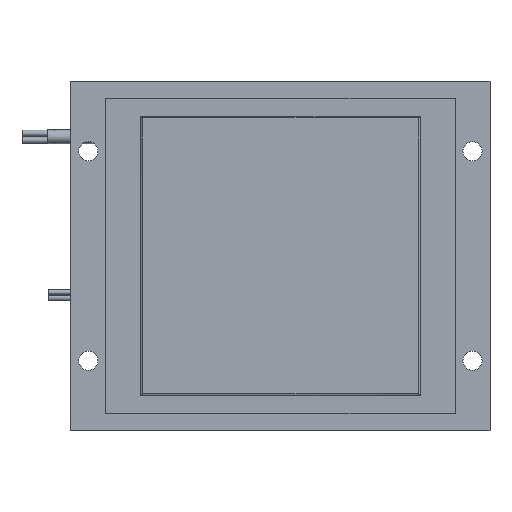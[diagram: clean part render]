
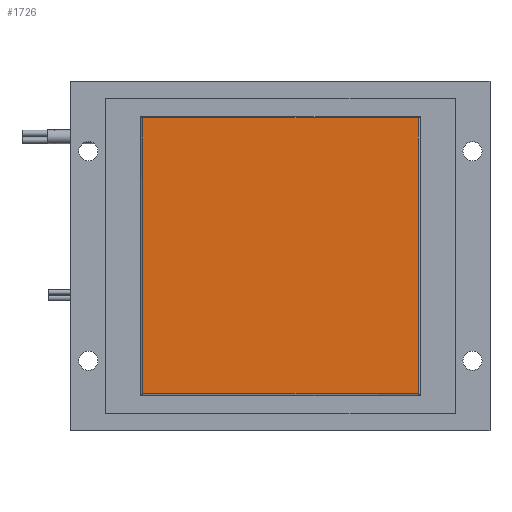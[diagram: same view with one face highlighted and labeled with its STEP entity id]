
A CAD part, top view. The second image highlights one B-rep face of the part: STEP entity #1726.
In plain terms, the highlighted planar face has unit normal (0, 0, 1).
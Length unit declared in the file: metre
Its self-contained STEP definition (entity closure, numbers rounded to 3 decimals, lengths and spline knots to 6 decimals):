
#1726=ADVANCED_FACE('0:818',(#3748),#3749,.T.);
#3748=FACE_OUTER_BOUND('',#6230,.T.);
#3749=PLANE('',#6231);
#6230=EDGE_LOOP('',(#10703,#10704,#10705,#10706));
#6231=AXIS2_PLACEMENT_3D('',#10707,#10708,#10709);
#10703=ORIENTED_EDGE('',*,*,#15134,.F.);
#10704=ORIENTED_EDGE('',*,*,#15131,.F.);
#10705=ORIENTED_EDGE('',*,*,#15127,.F.);
#10706=ORIENTED_EDGE('',*,*,#15135,.F.);
#10707=CARTESIAN_POINT('',(-0.0258,0.01,-0.066672));
#10708=DIRECTION('',(0.0,0.0,1.0));
#10709=DIRECTION('',(1.0,0.,0.0));
#15127=EDGE_CURVE('0:3514',#18010,#18012,#18013,.T.);
#15131=EDGE_CURVE('0:3508',#18012,#18017,#18018,.T.);
#15134=EDGE_CURVE('0:3502',#18017,#18021,#18022,.T.);
#15135=EDGE_CURVE('0:3520',#18021,#18010,#18023,.T.);
#18010=VERTEX_POINT('',#22181);
#18012=VERTEX_POINT('',#22183);
#18013=LINE('',#22184,#22185);
#18017=VERTEX_POINT('',#22189);
#18018=LINE('',#22190,#22191);
#18021=VERTEX_POINT('',#22194);
#18022=LINE('',#22195,#22196);
#18023=LINE('',#22197,#22198);
#22181=CARTESIAN_POINT('',(-0.0253,0.0895,-0.066672));
#22183=CARTESIAN_POINT('',(0.0537,0.0895,-0.066672));
#22184=CARTESIAN_POINT('',(-0.0058,0.0895,-0.066672));
#22185=VECTOR('',#26376,1.0);
#22189=CARTESIAN_POINT('',(0.0537,0.0105,-0.066672));
#22190=CARTESIAN_POINT('',(0.0537,0.03,-0.066672));
#22191=VECTOR('',#26380,1.0);
#22194=CARTESIAN_POINT('',(-0.0253,0.0105,-0.066672));
#22195=CARTESIAN_POINT('',(-0.0058,0.0105,-0.066672));
#22196=VECTOR('',#26384,1.0);
#22197=CARTESIAN_POINT('',(-0.0253,0.03,-0.066672));
#22198=VECTOR('',#26385,1.0);
#26376=DIRECTION('',(1.0,0.0,0.0));
#26380=DIRECTION('',(0.0,-1.0,0.0));
#26384=DIRECTION('',(-1.0,0.0,0.0));
#26385=DIRECTION('',(0.0,1.0,0.0));
